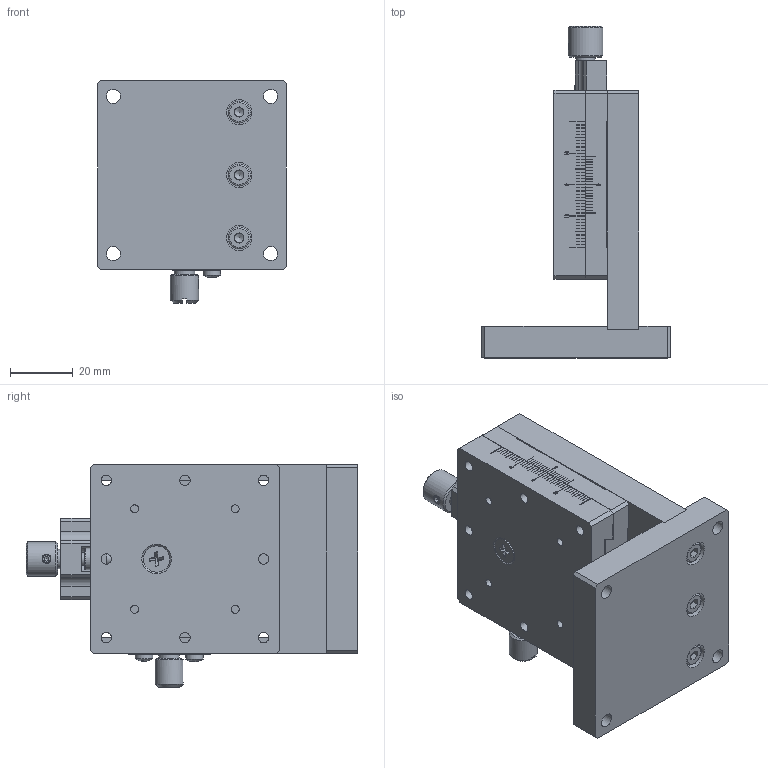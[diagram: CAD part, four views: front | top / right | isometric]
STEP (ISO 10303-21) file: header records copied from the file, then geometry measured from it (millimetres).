
FILE_DESCRIPTION (( 'STEP AP203' ), '1' );
FILE_NAME ('BFZ60.STEP', '2024-07-31T06:21:31', ( 'Windows User' ), ( 'P R C' ), 'SwSTEP 2.0', 'SolidWorks 2024', '' );
FILE_SCHEMA (( 'CONFIG_CONTROL_DESIGN' ));
Length unit declared in the file: millimetre
Products named in the file (1): BFZ60
Bounding box: 60 x 105.5 x 70.8 mm (x, y, z)
Volume: 136743 mm3; surface area: 53072.4 mm2
Topology: 19 solids, 19 shells, 751 faces, 1944 edges, 1265 vertices
Faces by surface type: plane 551, cylinder 111, bspline 44, cone 38, torus 5, sphere 2
Full cylindrical faces by diameter (mm): 2.5 x14, 3 x5, 3.2 x2, 3.3 x17, 4 x7, 4.1 x3, 4.5 x12, 5.5 x2, 5.6 x2, 5.8 x2, 6 x1, 6.094 x1, 6.2 x2, 6.5 x1, 6.8 x1, 7 x3, 8 x11, 8.4 x1, 9 x1, 9.9 x1, 11 x2
Entity records: 26703 total; most frequent: CARTESIAN_POINT 9446, ORIENTED_EDGE 3560, DIRECTION 3153, EDGE_CURVE 1780, VERTEX_POINT 1235, VECTOR 1131, LINE 1131, AXIS2_PLACEMENT_3D 1011
